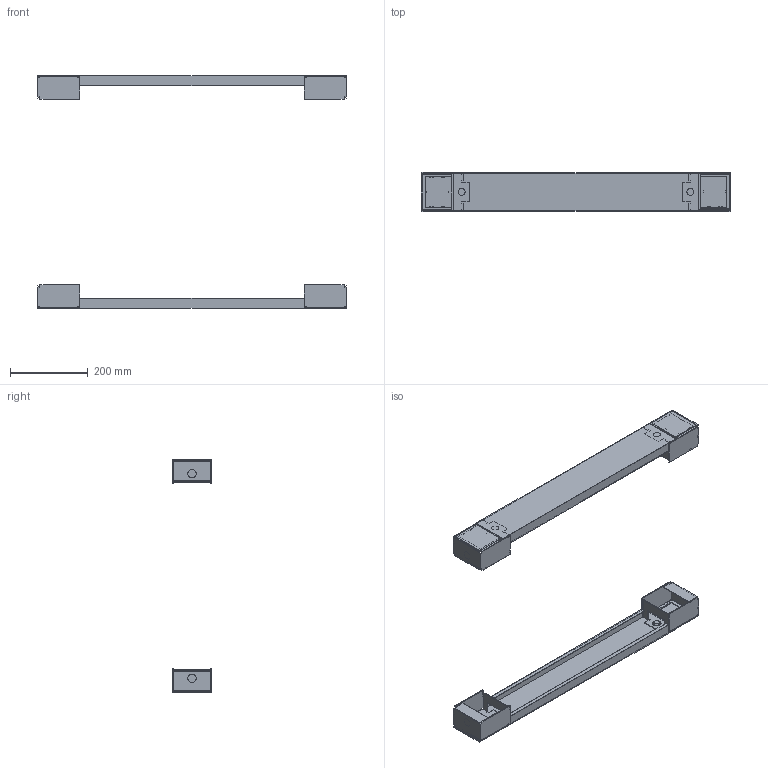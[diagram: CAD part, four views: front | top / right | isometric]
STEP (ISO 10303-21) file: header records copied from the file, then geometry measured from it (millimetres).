
FILE_DESCRIPTION( ( 'STEP AP214' ), '1' );
FILE_NAME( 'p:/temp/worker_200/temp/exporttempdir_3192_109_UGKLs/format_0/PF1080(0).stp', '2021-03-16T11:14:01', ( 'License CC BY-ND 4.0' ), ( 'CADENAS' ), ' ', 'PARTsolutions', ' ' );
FILE_SCHEMA( ( 'AUTOMOTIVE_DESIGN { 1 0 10303 214 1 1 1 1 }' ) );
Length unit declared in the file: millimetre
Products named in the file (4): PF1080(0); _PF1080(0)_P1; _PF1080(0)_P5; _PF1080(0)_P3
Assembly tree (10 placements, depth 2):
  PF1080(0)
    _PF1080(0)_P1  x2
    _PF1080(0)_P5  x4
    _PF1080(0)_P3  x4
Bounding box: 798 x 100 x 602 mm (x, y, z)
Volume: 614991.5 mm3; surface area: 723365.9 mm2
Topology: 10 solids, 10 shells, 544 faces, 1580 edges, 1056 vertices
Faces by surface type: plane 500, cylinder 36, cone 8
Full cylindrical faces by diameter (mm): 18 x4
Entity records: 6114 total; most frequent: CARTESIAN_POINT 866, ORIENTED_EDGE 844, DIRECTION 766, EDGE_CURVE 422, LINE 398, VECTOR 398, VERTEX_POINT 284, AXIS2_PLACEMENT_3D 184
